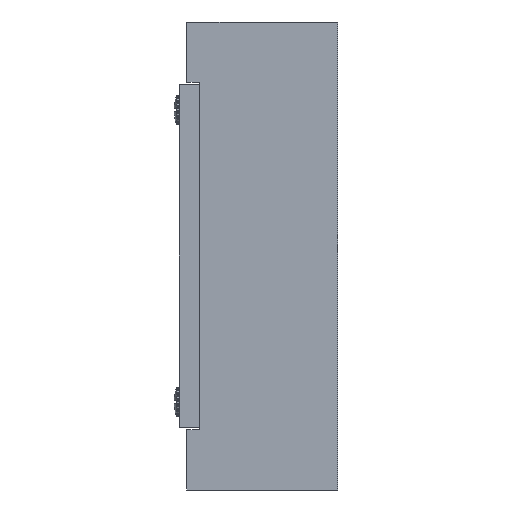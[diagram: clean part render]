
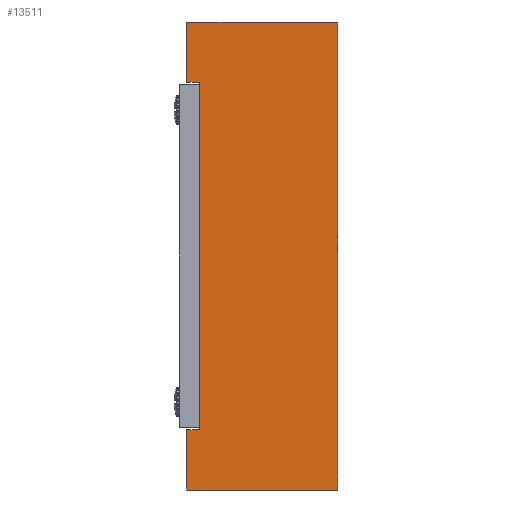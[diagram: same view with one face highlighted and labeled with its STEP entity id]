
A CAD part, front view. The second image highlights one B-rep face of the part: STEP entity #13511.
In plain terms, the highlighted planar face has unit normal (0, -1, 0).
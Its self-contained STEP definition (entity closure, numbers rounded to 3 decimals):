
#166=DIRECTION ( 'NONE',  ( 1., 0., 0. ) ) ;
#2291=VERTEX_POINT ( 'NONE', #42814 ) ;
#2809=CARTESIAN_POINT ( 'NONE',  ( -15., -15., 34.5 ) ) ;
#5895=ORIENTED_EDGE ( 'NONE', *, *, #64128, .T. ) ;
#5990=DIRECTION ( 'NONE',  ( 0., -1., 0. ) ) ;
#6329=VERTEX_POINT ( 'NONE', #52647 ) ;
#6719=ORIENTED_EDGE ( 'NONE', *, *, #15587, .F. ) ;
#8429=CARTESIAN_POINT ( 'NONE',  ( -12.5, -15., -34.5 ) ) ;
#9176=CARTESIAN_POINT ( 'NONE',  ( 15., -15., -46.5 ) ) ;
#10015=CARTESIAN_POINT ( 'NONE',  ( -15., -15., 46.5 ) ) ;
#10213=VECTOR ( 'NONE', #23862, 1000. ) ;
#11562=ORIENTED_EDGE ( 'NONE', *, *, #37695, .T. ) ;
#11966=EDGE_CURVE ( 'NONE', #43830, #47830, #36419, .T. ) ;
#13511=ADVANCED_FACE ( 'NONE', ( #42625 ), #52019, .T. ) ;
#13547=LINE ( 'NONE', #33806, #47461 ) ;
#14944=LINE ( 'NONE', #58401, #40817 ) ;
#15537=ORIENTED_EDGE ( 'NONE', *, *, #34078, .F. ) ;
#15587=EDGE_CURVE ( 'NONE', #38023, #6329, #21377, .T. ) ;
#16155=CARTESIAN_POINT ( 'NONE',  ( -15., -15., -46.5 ) ) ;
#17479=VECTOR ( 'NONE', #51553, 1000. ) ;
#19175=LINE ( 'NONE', #36736, #44255 ) ;
#19571=ORIENTED_EDGE ( 'NONE', *, *, #62456, .F. ) ;
#20740=LINE ( 'NONE', #10015, #17479 ) ;
#21377=LINE ( 'NONE', #2809, #39240 ) ;
#21837=ORIENTED_EDGE ( 'NONE', *, *, #35792, .T. ) ;
#23181=DIRECTION ( 'NONE',  ( 0., 0., -1. ) ) ;
#23862=DIRECTION ( 'NONE',  ( 0., 0., 1. ) ) ;
#24964=DIRECTION ( 'NONE',  ( 1., 0., 0. ) ) ;
#25908=VECTOR ( 'NONE', #166, 1000. ) ;
#28217=AXIS2_PLACEMENT_3D ( 'NONE', #16155, #5990, #58123 ) ;
#28974=CARTESIAN_POINT ( 'NONE',  ( -15., -15., 34.5 ) ) ;
#31010=VERTEX_POINT ( 'NONE', #39733 ) ;
#32699=EDGE_CURVE ( 'NONE', #31010, #47830, #13547, .T. ) ;
#33448=VECTOR ( 'NONE', #24964, 1000. ) ;
#33520=DIRECTION ( 'NONE',  ( 0., 0., 1. ) ) ;
#33806=CARTESIAN_POINT ( 'NONE',  ( -12.5, -15., 34.5 ) ) ;
#34078=EDGE_CURVE ( 'NONE', #6329, #53008, #20740, .T. ) ;
#35792=EDGE_CURVE ( 'NONE', #2291, #42676, #43941, .T. ) ;
#36419=LINE ( 'NONE', #41073, #25908 ) ;
#36736=CARTESIAN_POINT ( 'NONE',  ( -15., -15., -46.5 ) ) ;
#37186=DIRECTION ( 'NONE',  ( 0., 0., 1. ) ) ;
#37695=EDGE_CURVE ( 'NONE', #42676, #53008, #60308, .T. ) ;
#38013=EDGE_LOOP ( 'NONE', ( #19571, #21837, #11562, #15537, #6719, #5895, #51108, #55513 ) ) ;
#38023=VERTEX_POINT ( 'NONE', #28974 ) ;
#38337=DIRECTION ( 'NONE',  ( 1., 0., 0. ) ) ;
#39240=VECTOR ( 'NONE', #33520, 1000. ) ;
#39450=CARTESIAN_POINT ( 'NONE',  ( -15., -15., -46.5 ) ) ;
#39733=CARTESIAN_POINT ( 'NONE',  ( -12.5, -15., 34.5 ) ) ;
#40817=VECTOR ( 'NONE', #38337, 1000. ) ;
#41073=CARTESIAN_POINT ( 'NONE',  ( -15., -15., -34.5 ) ) ;
#42625=FACE_OUTER_BOUND ( 'NONE', #38013, .T. ) ;
#42676=VERTEX_POINT ( 'NONE', #53758 ) ;
#42814=CARTESIAN_POINT ( 'NONE',  ( -15., -15., -46.5 ) ) ;
#43830=VERTEX_POINT ( 'NONE', #52322 ) ;
#43941=LINE ( 'NONE', #39450, #33448 ) ;
#44255=VECTOR ( 'NONE', #37186, 1000. ) ;
#44740=CARTESIAN_POINT ( 'NONE',  ( 15., -15., 46.5 ) ) ;
#47461=VECTOR ( 'NONE', #23181, 1000. ) ;
#47830=VERTEX_POINT ( 'NONE', #8429 ) ;
#51108=ORIENTED_EDGE ( 'NONE', *, *, #32699, .T. ) ;
#51553=DIRECTION ( 'NONE',  ( 1., 0., 0. ) ) ;
#52019=PLANE ( 'NONE',  #28217 ) ;
#52322=CARTESIAN_POINT ( 'NONE',  ( -15., -15., -34.5 ) ) ;
#52647=CARTESIAN_POINT ( 'NONE',  ( -15., -15., 46.5 ) ) ;
#53008=VERTEX_POINT ( 'NONE', #44740 ) ;
#53758=CARTESIAN_POINT ( 'NONE',  ( 15., -15., -46.5 ) ) ;
#55513=ORIENTED_EDGE ( 'NONE', *, *, #11966, .F. ) ;
#58123=DIRECTION ( 'NONE',  ( 0., 0., -1. ) ) ;
#58401=CARTESIAN_POINT ( 'NONE',  ( -15., -15., 34.5 ) ) ;
#60308=LINE ( 'NONE', #9176, #10213 ) ;
#62456=EDGE_CURVE ( 'NONE', #2291, #43830, #19175, .T. ) ;
#64128=EDGE_CURVE ( 'NONE', #38023, #31010, #14944, .T. ) ;
